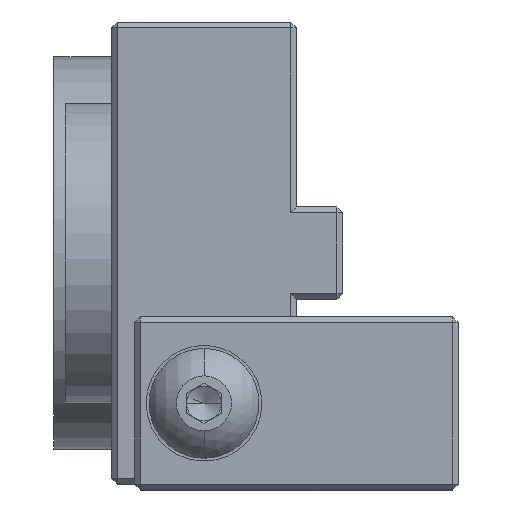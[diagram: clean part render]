
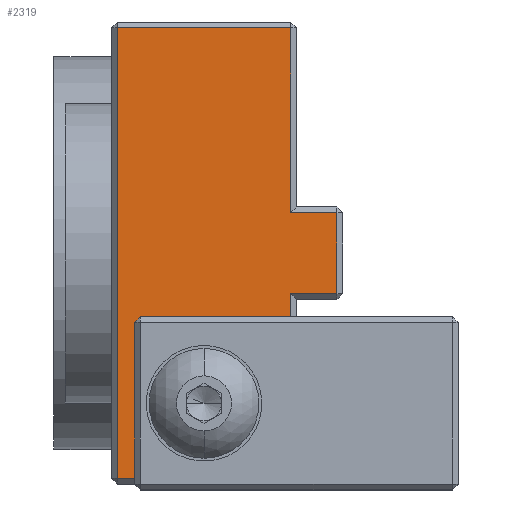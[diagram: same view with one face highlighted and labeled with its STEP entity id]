
A CAD part, left-side view. The second image highlights one B-rep face of the part: STEP entity #2319.
In plain terms, the highlighted planar face has unit normal (-1, 0, 0).
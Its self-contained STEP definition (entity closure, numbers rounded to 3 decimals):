
#41 = AXIS2_PLACEMENT_3D ( 'NONE', #532, #3578, #4065 ) ;
#116 = CARTESIAN_POINT ( 'NONE',  ( -40., 19.5, 19.5 ) ) ;
#264 = DIRECTION ( 'NONE',  ( 0., 1., 0. ) ) ;
#369 = VECTOR ( 'NONE', #1894, 1000. ) ;
#389 = VERTEX_POINT ( 'NONE', #3369 ) ;
#410 = CARTESIAN_POINT ( 'NONE',  ( -40., 0.5, 3.5 ) ) ;
#444 = ORIENTED_EDGE ( 'NONE', *, *, #1290, .T. ) ;
#505 = LINE ( 'NONE', #3895, #369 ) ;
#532 = CARTESIAN_POINT ( 'NONE',  ( -40., 12., -13. ) ) ;
#576 = EDGE_CURVE ( 'NONE', #389, #3892, #4945, .T. ) ;
#658 = EDGE_LOOP ( 'NONE', ( #4550, #2704, #4582, #444, #5456, #3486, #1038, #5717 ) ) ;
#697 = VECTOR ( 'NONE', #3988, 1000. ) ;
#844 = LINE ( 'NONE', #3279, #697 ) ;
#917 = VERTEX_POINT ( 'NONE', #3382 ) ;
#977 = LINE ( 'NONE', #3353, #3365 ) ;
#991 = VERTEX_POINT ( 'NONE', #410 ) ;
#1014 = LINE ( 'NONE', #1714, #2213 ) ;
#1038 = ORIENTED_EDGE ( 'NONE', *, *, #3294, .T. ) ;
#1062 = CIRCLE ( 'NONE', #41, 2.1 ) ;
#1083 = CARTESIAN_POINT ( 'NONE',  ( -40., 19.5, -19.5 ) ) ;
#1094 = DIRECTION ( 'NONE',  ( 1., 0., 0. ) ) ;
#1199 = CARTESIAN_POINT ( 'NONE',  ( -40., 0.5, -3.5 ) ) ;
#1241 = DIRECTION ( 'NONE',  ( 0., 1., 0. ) ) ;
#1290 = EDGE_CURVE ( 'NONE', #4866, #5363, #1014, .T. ) ;
#1473 = LINE ( 'NONE', #2692, #3857 ) ;
#1683 = CARTESIAN_POINT ( 'NONE',  ( -40., 12., -15.1 ) ) ;
#1714 = CARTESIAN_POINT ( 'NONE',  ( -40., 4.5, 20. ) ) ;
#1740 = EDGE_CURVE ( 'NONE', #5588, #991, #4555, .T. ) ;
#1759 = CARTESIAN_POINT ( 'NONE',  ( -40., 20., 20. ) ) ;
#1819 = AXIS2_PLACEMENT_3D ( 'NONE', #2409, #5061, #5433 ) ;
#1843 = LINE ( 'NONE', #4354, #5365 ) ;
#1894 = DIRECTION ( 'NONE',  ( 0., -1., 0. ) ) ;
#1956 = EDGE_CURVE ( 'NONE', #917, #4200, #1473, .T. ) ;
#1980 = LINE ( 'NONE', #4811, #4359 ) ;
#2138 = CARTESIAN_POINT ( 'NONE',  ( -40., 0.5, 4. ) ) ;
#2152 = DIRECTION ( 'NONE',  ( 0., 0., -1. ) ) ;
#2213 = VECTOR ( 'NONE', #3009, 1000. ) ;
#2259 = VERTEX_POINT ( 'NONE', #1083 ) ;
#2319 = ADVANCED_FACE ( 'NONE', ( #3252, #4287 ), #5118, .F. ) ;
#2352 = AXIS2_PLACEMENT_3D ( 'NONE', #1759, #1094, #2152 ) ;
#2409 = CARTESIAN_POINT ( 'NONE',  ( -40., 12., -13. ) ) ;
#2692 = CARTESIAN_POINT ( 'NONE',  ( -40., 4.5, 20. ) ) ;
#2704 = ORIENTED_EDGE ( 'NONE', *, *, #1740, .T. ) ;
#3009 = DIRECTION ( 'NONE',  ( 0., 0., 1. ) ) ;
#3129 = EDGE_LOOP ( 'NONE', ( #4015, #5739 ) ) ;
#3252 = FACE_BOUND ( 'NONE', #3129, .T. ) ;
#3279 = CARTESIAN_POINT ( 'NONE',  ( -40., 19.5, 20. ) ) ;
#3294 = EDGE_CURVE ( 'NONE', #2259, #917, #1980, .T. ) ;
#3353 = CARTESIAN_POINT ( 'NONE',  ( -40., 20., 3.5 ) ) ;
#3365 = VECTOR ( 'NONE', #264, 1000. ) ;
#3369 = CARTESIAN_POINT ( 'NONE',  ( -40., 12., -10.9 ) ) ;
#3382 = CARTESIAN_POINT ( 'NONE',  ( -40., 4.5, -19.5 ) ) ;
#3402 = DIRECTION ( 'NONE',  ( 0., 0., 1. ) ) ;
#3486 = ORIENTED_EDGE ( 'NONE', *, *, #5708, .T. ) ;
#3535 = VECTOR ( 'NONE', #3844, 1000. ) ;
#3578 = DIRECTION ( 'NONE',  ( -1., 0., 0. ) ) ;
#3844 = DIRECTION ( 'NONE',  ( 0., 0., 1. ) ) ;
#3857 = VECTOR ( 'NONE', #3402, 1000. ) ;
#3892 = VERTEX_POINT ( 'NONE', #1683 ) ;
#3895 = CARTESIAN_POINT ( 'NONE',  ( -40., 20., -3.5 ) ) ;
#3988 = DIRECTION ( 'NONE',  ( 0., 0., -1. ) ) ;
#4015 = ORIENTED_EDGE ( 'NONE', *, *, #576, .F. ) ;
#4049 = CARTESIAN_POINT ( 'NONE',  ( -40., 4.5, -3.5 ) ) ;
#4065 = DIRECTION ( 'NONE',  ( 0., 0., 1. ) ) ;
#4112 = CARTESIAN_POINT ( 'NONE',  ( -40., 4.5, 19.5 ) ) ;
#4200 = VERTEX_POINT ( 'NONE', #4049 ) ;
#4268 = EDGE_CURVE ( 'NONE', #3892, #389, #1062, .T. ) ;
#4287 = FACE_OUTER_BOUND ( 'NONE', #658, .T. ) ;
#4354 = CARTESIAN_POINT ( 'NONE',  ( -40., 20., 19.5 ) ) ;
#4359 = VECTOR ( 'NONE', #5673, 1000. ) ;
#4550 = ORIENTED_EDGE ( 'NONE', *, *, #5477, .T. ) ;
#4555 = LINE ( 'NONE', #2138, #3535 ) ;
#4582 = ORIENTED_EDGE ( 'NONE', *, *, #5062, .T. ) ;
#4811 = CARTESIAN_POINT ( 'NONE',  ( -40., 20., -19.5 ) ) ;
#4836 = EDGE_CURVE ( 'NONE', #5363, #5608, #1843, .T. ) ;
#4866 = VERTEX_POINT ( 'NONE', #5185 ) ;
#4945 = CIRCLE ( 'NONE', #1819, 2.1 ) ;
#5061 = DIRECTION ( 'NONE',  ( -1., 0., 0. ) ) ;
#5062 = EDGE_CURVE ( 'NONE', #991, #4866, #977, .T. ) ;
#5118 = PLANE ( 'NONE',  #2352 ) ;
#5185 = CARTESIAN_POINT ( 'NONE',  ( -40., 4.5, 3.5 ) ) ;
#5363 = VERTEX_POINT ( 'NONE', #4112 ) ;
#5365 = VECTOR ( 'NONE', #1241, 1000. ) ;
#5433 = DIRECTION ( 'NONE',  ( 0., 0., 1. ) ) ;
#5456 = ORIENTED_EDGE ( 'NONE', *, *, #4836, .T. ) ;
#5477 = EDGE_CURVE ( 'NONE', #4200, #5588, #505, .T. ) ;
#5588 = VERTEX_POINT ( 'NONE', #1199 ) ;
#5608 = VERTEX_POINT ( 'NONE', #116 ) ;
#5673 = DIRECTION ( 'NONE',  ( 0., -1., 0. ) ) ;
#5708 = EDGE_CURVE ( 'NONE', #5608, #2259, #844, .T. ) ;
#5717 = ORIENTED_EDGE ( 'NONE', *, *, #1956, .T. ) ;
#5739 = ORIENTED_EDGE ( 'NONE', *, *, #4268, .F. ) ;
